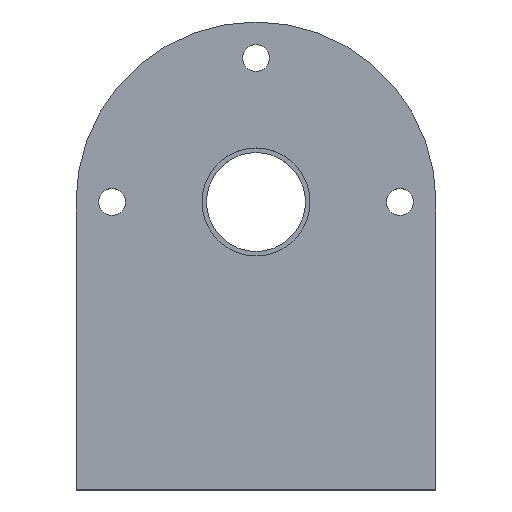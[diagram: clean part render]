
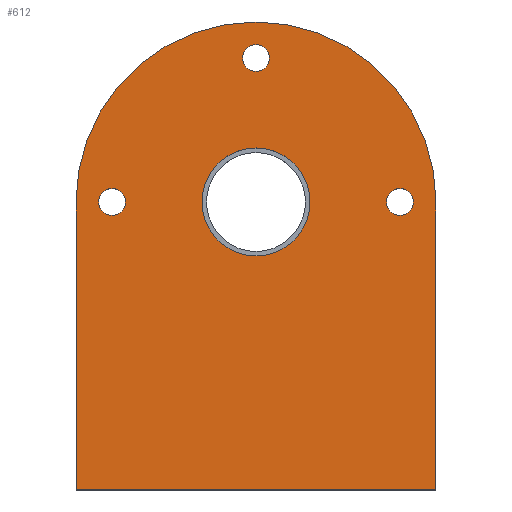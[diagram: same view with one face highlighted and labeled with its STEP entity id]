
A CAD part, top view. The second image highlights one B-rep face of the part: STEP entity #612.
In plain terms, the highlighted planar face has unit normal (0, 0, 1).
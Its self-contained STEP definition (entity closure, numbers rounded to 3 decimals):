
#9 = DIRECTION ( 'NONE',  ( 0., 0., 1. ) ) ;
#12 = CIRCLE ( 'NONE', #332, 1.5 ) ;
#24 = EDGE_CURVE ( 'NONE', #206, #516, #274, .T. ) ;
#30 = CARTESIAN_POINT ( 'NONE',  ( 20., -32., 4.5 ) ) ;
#32 = VERTEX_POINT ( 'NONE', #602 ) ;
#40 = DIRECTION ( 'NONE',  ( 0., 0., 1. ) ) ;
#42 = DIRECTION ( 'NONE',  ( 1., 0., 0. ) ) ;
#43 = CARTESIAN_POINT ( 'NONE',  ( -16., 0., 4.5 ) ) ;
#44 = VECTOR ( 'NONE', #47, 1000. ) ;
#46 = DIRECTION ( 'NONE',  ( 1., 0., 0. ) ) ;
#47 = DIRECTION ( 'NONE',  ( 0., 1., 0. ) ) ;
#55 = EDGE_LOOP ( 'NONE', ( #264, #349 ) ) ;
#85 = EDGE_CURVE ( 'NONE', #130, #187, #690, .T. ) ;
#93 = CIRCLE ( 'NONE', #565, 6. ) ;
#112 = AXIS2_PLACEMENT_3D ( 'NONE', #116, #613, #46 ) ;
#114 = AXIS2_PLACEMENT_3D ( 'NONE', #537, #163, #533 ) ;
#116 = CARTESIAN_POINT ( 'NONE',  ( 0., 16., 4.5 ) ) ;
#119 = VERTEX_POINT ( 'NONE', #421 ) ;
#123 = CARTESIAN_POINT ( 'NONE',  ( 6., 0., 4.5 ) ) ;
#124 = CARTESIAN_POINT ( 'NONE',  ( 14.5, 0., 4.5 ) ) ;
#125 = CIRCLE ( 'NONE', #112, 1.5 ) ;
#130 = VERTEX_POINT ( 'NONE', #710 ) ;
#139 = VERTEX_POINT ( 'NONE', #148 ) ;
#144 = AXIS2_PLACEMENT_3D ( 'NONE', #534, #471, #532 ) ;
#148 = CARTESIAN_POINT ( 'NONE',  ( 20., 0., 4.5 ) ) ;
#151 = DIRECTION ( 'NONE',  ( 0., 0., 1. ) ) ;
#161 = CARTESIAN_POINT ( 'NONE',  ( -1.5, 16., 4.5 ) ) ;
#163 = DIRECTION ( 'NONE',  ( 0., 0., 1. ) ) ;
#165 = ORIENTED_EDGE ( 'NONE', *, *, #473, .T. ) ;
#172 = EDGE_CURVE ( 'NONE', #119, #446, #662, .T. ) ;
#175 = FACE_BOUND ( 'NONE', #571, .T. ) ;
#182 = CARTESIAN_POINT ( 'NONE',  ( -17.5, 0., 4.5 ) ) ;
#187 = VERTEX_POINT ( 'NONE', #182 ) ;
#193 = AXIS2_PLACEMENT_3D ( 'NONE', #590, #151, #379 ) ;
#206 = VERTEX_POINT ( 'NONE', #161 ) ;
#211 = DIRECTION ( 'NONE',  ( 1., 0., 0. ) ) ;
#212 = CARTESIAN_POINT ( 'NONE',  ( -20., 0., 4.5 ) ) ;
#215 = AXIS2_PLACEMENT_3D ( 'NONE', #43, #40, #569 ) ;
#229 = EDGE_CURVE ( 'NONE', #504, #139, #333, .T. ) ;
#231 = CARTESIAN_POINT ( 'NONE',  ( 0., 0., 4.5 ) ) ;
#237 = DIRECTION ( 'NONE',  ( 0., 0., 1. ) ) ;
#239 = ORIENTED_EDGE ( 'NONE', *, *, #270, .F. ) ;
#246 = CIRCLE ( 'NONE', #215, 1.5 ) ;
#252 = CARTESIAN_POINT ( 'NONE',  ( 20., -32., 4.5 ) ) ;
#255 = ORIENTED_EDGE ( 'NONE', *, *, #85, .F. ) ;
#259 = EDGE_CURVE ( 'NONE', #688, #723, #93, .T. ) ;
#264 = ORIENTED_EDGE ( 'NONE', *, *, #259, .F. ) ;
#268 = ORIENTED_EDGE ( 'NONE', *, *, #172, .T. ) ;
#270 = EDGE_CURVE ( 'NONE', #187, #130, #246, .T. ) ;
#274 = CIRCLE ( 'NONE', #144, 1.5 ) ;
#286 = FACE_BOUND ( 'NONE', #309, .T. ) ;
#291 = ORIENTED_EDGE ( 'NONE', *, *, #703, .F. ) ;
#292 = AXIS2_PLACEMENT_3D ( 'NONE', #231, #350, #42 ) ;
#308 = VERTEX_POINT ( 'NONE', #124 ) ;
#309 = EDGE_LOOP ( 'NONE', ( #291, #342 ) ) ;
#321 = CIRCLE ( 'NONE', #292, 6. ) ;
#332 = AXIS2_PLACEMENT_3D ( 'NONE', #517, #9, #641 ) ;
#333 = LINE ( 'NONE', #394, #44 ) ;
#340 = VECTOR ( 'NONE', #386, 1000. ) ;
#342 = ORIENTED_EDGE ( 'NONE', *, *, #735, .F. ) ;
#345 = CIRCLE ( 'NONE', #536, 1.5 ) ;
#349 = ORIENTED_EDGE ( 'NONE', *, *, #628, .F. ) ;
#350 = DIRECTION ( 'NONE',  ( 0., 0., 1. ) ) ;
#360 = DIRECTION ( 'NONE',  ( 1., 0., 0. ) ) ;
#368 = CARTESIAN_POINT ( 'NONE',  ( 16., 0., 4.5 ) ) ;
#378 = CARTESIAN_POINT ( 'NONE',  ( -20., -32., 4.5 ) ) ;
#379 = DIRECTION ( 'NONE',  ( 1., 0., 0. ) ) ;
#386 = DIRECTION ( 'NONE',  ( 0., -1., 0. ) ) ;
#390 = DIRECTION ( 'NONE',  ( 1., 0., 0. ) ) ;
#391 = CIRCLE ( 'NONE', #114, 20. ) ;
#394 = CARTESIAN_POINT ( 'NONE',  ( 20., 0., 4.5 ) ) ;
#421 = CARTESIAN_POINT ( 'NONE',  ( -20., 0., 4.5 ) ) ;
#439 = CARTESIAN_POINT ( 'NONE',  ( 1.5, 16., 4.5 ) ) ;
#446 = VERTEX_POINT ( 'NONE', #378 ) ;
#451 = CARTESIAN_POINT ( 'NONE',  ( 0., 0., 4.5 ) ) ;
#454 = FACE_BOUND ( 'NONE', #693, .T. ) ;
#471 = DIRECTION ( 'NONE',  ( 0., 0., 1. ) ) ;
#473 = EDGE_CURVE ( 'NONE', #139, #119, #391, .T. ) ;
#504 = VERTEX_POINT ( 'NONE', #252 ) ;
#508 = CARTESIAN_POINT ( 'NONE',  ( -6., 0., 4.5 ) ) ;
#514 = VECTOR ( 'NONE', #211, 1000. ) ;
#516 = VERTEX_POINT ( 'NONE', #439 ) ;
#517 = CARTESIAN_POINT ( 'NONE',  ( 16., 0., 4.5 ) ) ;
#532 = DIRECTION ( 'NONE',  ( 1., 0., 0. ) ) ;
#533 = DIRECTION ( 'NONE',  ( 1., 0., 0. ) ) ;
#534 = CARTESIAN_POINT ( 'NONE',  ( 0., 16., 4.5 ) ) ;
#536 = AXIS2_PLACEMENT_3D ( 'NONE', #368, #237, #360 ) ;
#537 = CARTESIAN_POINT ( 'NONE',  ( 0., 0., 4.5 ) ) ;
#550 = DIRECTION ( 'NONE',  ( 0., 0., 1. ) ) ;
#556 = EDGE_CURVE ( 'NONE', #446, #504, #721, .T. ) ;
#557 = CARTESIAN_POINT ( 'NONE',  ( 0., 0., 4.5 ) ) ;
#559 = DIRECTION ( 'NONE',  ( 0., 0., 1. ) ) ;
#565 = AXIS2_PLACEMENT_3D ( 'NONE', #557, #550, #390 ) ;
#569 = DIRECTION ( 'NONE',  ( 1., 0., 0. ) ) ;
#571 = EDGE_LOOP ( 'NONE', ( #239, #255 ) ) ;
#578 = EDGE_LOOP ( 'NONE', ( #165, #268, #603, #730 ) ) ;
#590 = CARTESIAN_POINT ( 'NONE',  ( -16., 0., 4.5 ) ) ;
#602 = CARTESIAN_POINT ( 'NONE',  ( 17.5, 0., 4.5 ) ) ;
#603 = ORIENTED_EDGE ( 'NONE', *, *, #556, .T. ) ;
#612 = ADVANCED_FACE ( 'NONE', ( #454, #175, #286, #622, #736 ), #626, .T. ) ;
#613 = DIRECTION ( 'NONE',  ( 0., 0., 1. ) ) ;
#622 = FACE_OUTER_BOUND ( 'NONE', #578, .T. ) ;
#624 = EDGE_CURVE ( 'NONE', #516, #206, #125, .T. ) ;
#626 = PLANE ( 'NONE',  #720 ) ;
#628 = EDGE_CURVE ( 'NONE', #723, #688, #321, .T. ) ;
#641 = DIRECTION ( 'NONE',  ( 1., 0., 0. ) ) ;
#662 = LINE ( 'NONE', #212, #340 ) ;
#669 = ORIENTED_EDGE ( 'NONE', *, *, #24, .F. ) ;
#679 = ORIENTED_EDGE ( 'NONE', *, *, #624, .F. ) ;
#688 = VERTEX_POINT ( 'NONE', #508 ) ;
#690 = CIRCLE ( 'NONE', #193, 1.5 ) ;
#693 = EDGE_LOOP ( 'NONE', ( #669, #679 ) ) ;
#703 = EDGE_CURVE ( 'NONE', #308, #32, #12, .T. ) ;
#710 = CARTESIAN_POINT ( 'NONE',  ( -14.5, 0., 4.5 ) ) ;
#720 = AXIS2_PLACEMENT_3D ( 'NONE', #451, #559, #731 ) ;
#721 = LINE ( 'NONE', #30, #514 ) ;
#723 = VERTEX_POINT ( 'NONE', #123 ) ;
#730 = ORIENTED_EDGE ( 'NONE', *, *, #229, .T. ) ;
#731 = DIRECTION ( 'NONE',  ( 1., 0., 0. ) ) ;
#735 = EDGE_CURVE ( 'NONE', #32, #308, #345, .T. ) ;
#736 = FACE_BOUND ( 'NONE', #55, .T. ) ;
